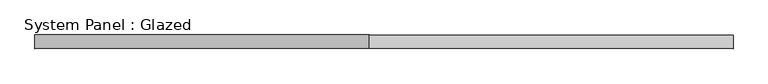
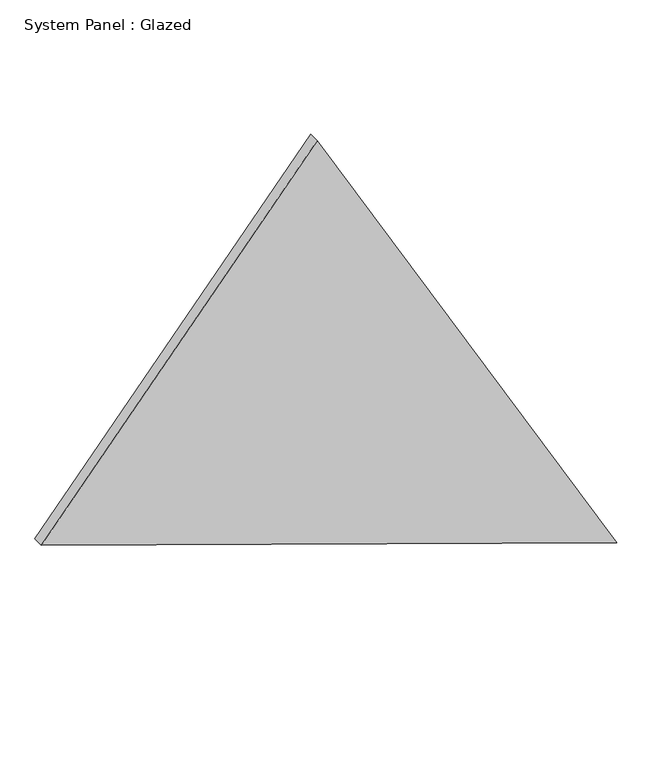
"""IFC4 building model written with IfcOpenShell, lengths in millimetres: plate geometry, System Panel : Glazed."""

from ifc_helpers import new_model, si_unit, frame, origin, place, context, project, spatial, polyline, outline, extrude, source, transform, mapped, element, save


def system_panel_glazed_d30a026a(model_context):
    return source(origin(), model_context, "Body", "SweptSolid", [
        extrude(outline(polyline([(444.1166894, -642.6972183), (0.0, 642.6972183), (1183.6671336, -26.9374645), (444.1166894, -642.6972183)])), frame((0.0, -49.5, 0.0), z_axis=(0.0, 1.0, 0.0), x_axis=(0.0, 0.0, 1.0)), (0.0, 0.0, 1.0), 25.0),
    ])


if __name__ == "__main__":
    model = new_model("IFC4")
    model_context = context("Model", 3, world=origin())
    ifc_project = project(units=[si_unit("LENGTHUNIT", "METRE", prefix="MILLI")], contexts=[model_context])
    site = spatial("IfcSite", under=ifc_project)
    building = spatial("IfcBuilding", under=site)
    placement = place(None, origin())
    system_panel_glazed_shape = system_panel_glazed_d30a026a(model_context)
    element("IfcPlate", 1, ObjectType="System Panel : Glazed", at=placement, inside=building, context=model_context, shape_type="MappedRepresentation", body=[
        mapped(system_panel_glazed_shape, transform((0.0, 0.0, 0.0), x_axis=(1.0, 0.0, 0.0), y_axis=(0.0, 1.0, 0.0), z_axis=(0.0, 0.0, 1.0))),
    ])
    save(model, "model.ifc")
